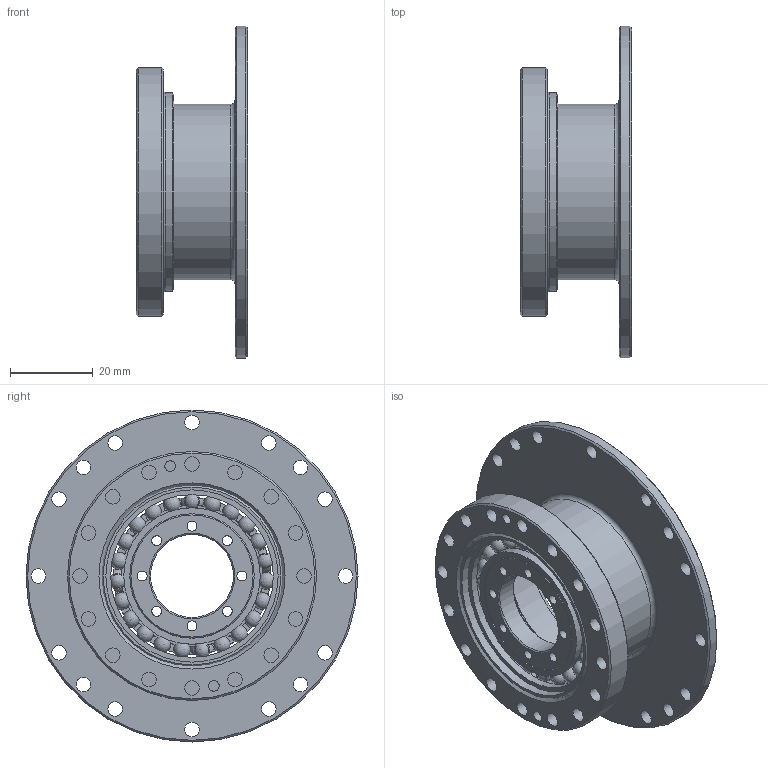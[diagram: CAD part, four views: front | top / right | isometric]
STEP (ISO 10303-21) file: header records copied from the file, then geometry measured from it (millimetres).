
FILE_DESCRIPTION(/* description */ (''),/* implementation_level */ '2;1');
FILE_NAME(/* name */ 'Getriebeset_HTG_43_HS.stp',/* time_stamp */ '2026-03-09T10:57:44+01:00',/* author */ (''),/* organization */ (''),/* preprocessor_version */ 'ST-DEVELOPER v19.4',/* originating_system */ 'SIEMENS PLM Software NX2212.9120',/* authorisation */ '');
FILE_SCHEMA (('AUTOMOTIVE_DESIGN { 1 0 10303 214 3 1 1 1 }'));
Length unit declared in the file: millimetre
Products named in the file (1): Getriebeset_HTG_43_HS
Bounding box: 26.75 x 80 x 80 mm (x, y, z)
Volume: 22603.4 mm3; surface area: 29775 mm2
Topology: 29 solids, 29 shells, 264 faces, 757 edges, 510 vertices
Faces by surface type: cylinder 99, plane 67, torus 46, sphere 35, cone 15, bspline 2
Full cylindrical faces by diameter (mm): 2.4 x8, 2.6 x2, 3.5 x32, 20 x1, 28 x1, 30 x2, 32.9 x3, 37 x1, 39.2 x2, 41.5 x2, 42.3 x1, 43 x1, 43.8 x1, 48 x1, 60 x2, 80 x1
Entity records: 10086 total; most frequent: CARTESIAN_POINT 3882, DIRECTION 1170, ORIENTED_EDGE 1116, EDGE_CURVE 558, AXIS2_PLACEMENT_3D 547, VERTEX_POINT 443, EDGE_LOOP 428, FACE_BOUND 313
